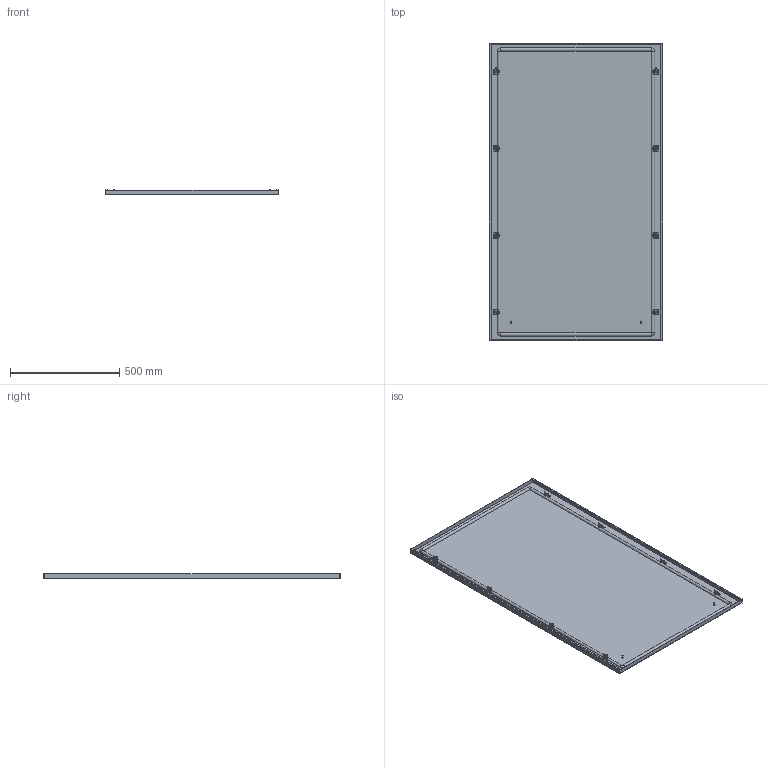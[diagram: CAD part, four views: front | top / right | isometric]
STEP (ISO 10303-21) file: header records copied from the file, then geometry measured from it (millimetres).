
FILE_DESCRIPTION(('Open CASCADE Model'),'2;1');
FILE_NAME('Open CASCADE Shape Model','2025-02-07T16:30:44',('Author'),( 'Open CASCADE'),'Open CASCADE STEP processor 7.8','Open CASCADE 7.8' ,'Unknown');
FILE_SCHEMA(('AUTOMOTIVE_DESIGN { 1 0 10303 214 1 1 1 1 }'));
Length unit declared in the file: millimetre
Products named in the file (10): Compound1; Compound2; Compound3; Solid1; Solid2; Solid3; Solid4; Solid5; Solid6; Solid7
Assembly tree (40 placements, depth 4):
  Compound1
    Compound2
      Compound3
        Solid1
        Solid2  x4
      Solid3
    Solid4  x8
    Solid5  x8
    Solid6  x8
    Solid7  x8
Bounding box: 794 x 1355 x 23.8 mm (x, y, z)
Volume: 2150512.3 mm3; surface area: 2560612.5 mm2
Topology: 38 solids, 38 shells, 1655 faces, 4040 edges, 2460 vertices
Faces by surface type: plane 1043, cone 308, cylinder 268, torus 25, bspline 8, revolution 3
Full cylindrical faces by diameter (mm): 5 x16, 6 x132, 7.5 x4, 8 x16, 10 x8, 11.57 x8
Entity records: 7823 total; most frequent: CARTESIAN_POINT 1513, DIRECTION 1262, ORIENTED_EDGE 1244, EDGE_CURVE 622, AXIS2_PLACEMENT_3D 425, LINE 409, VECTOR 409, VERTEX_POINT 387
